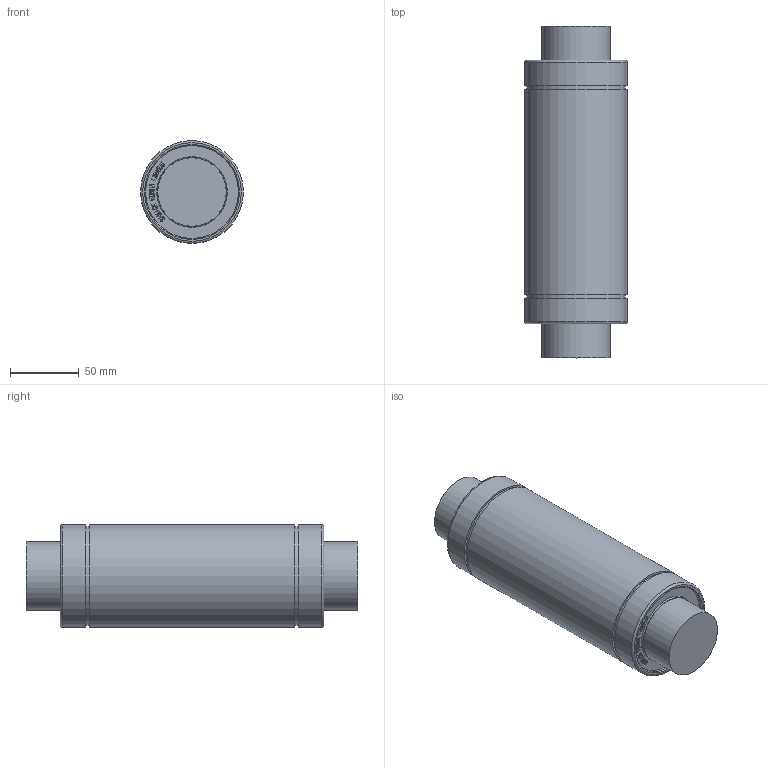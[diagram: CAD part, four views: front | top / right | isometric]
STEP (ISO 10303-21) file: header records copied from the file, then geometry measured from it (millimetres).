
FILE_DESCRIPTION(/* description */ (''),/* implementation_level */ '2;1');
FILE_NAME(/* name */ 'W:\(01) 2024년 홈페이지 CAD파일 최신화\LME_L\IPT\LME50LUU.stp',/* time_stamp */ '2025-01-25T09:35:49+09:00',/* author */ ('서우현'),/* organization */ (''),/* preprocessor_version */ 'ST-DEVELOPER v17.2',/* originating_system */ 'Autodesk Inventor 2019',/* authorisation */ '');
FILE_SCHEMA (('AUTOMOTIVE_DESIGN { 1 0 10303 214 3 1 1 }'));
Length unit declared in the file: millimetre
Products named in the file (1): LM5
Bounding box: 75 x 242 x 75 mm (x, y, z)
Volume: 935660.8 mm3; surface area: 64755.4 mm2
Topology: 1 solids, 1 shells, 841 faces, 2377 edges, 1592 vertices
Faces by surface type: bspline 600, plane 226, cylinder 9, cone 4, torus 2
Full cylindrical faces by diameter (mm): 50 x2, 67.7 x2, 72 x2, 75 x3
Entity records: 28775 total; most frequent: CARTESIAN_POINT 10211, ORIENTED_EDGE 4754, EDGE_CURVE 2377, DIRECTION 1715, VERTEX_POINT 1592, B_SPLINE_CURVE_WITH_KNOTS 1200, LINE 1123, VECTOR 1123
